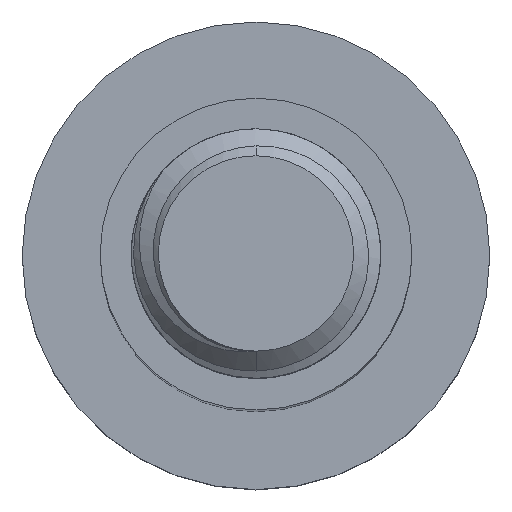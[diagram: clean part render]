
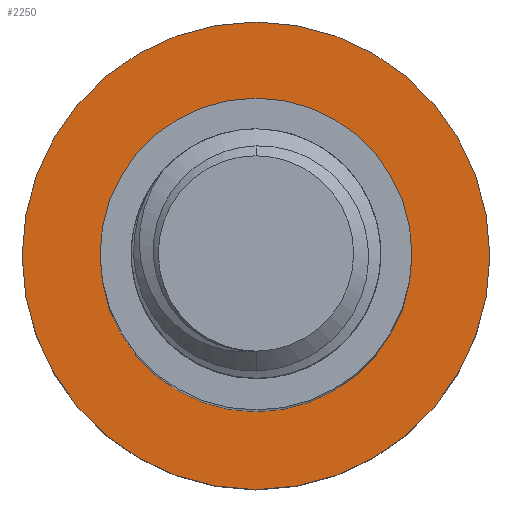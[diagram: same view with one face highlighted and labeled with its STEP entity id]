
A CAD part, top view. The second image highlights one B-rep face of the part: STEP entity #2250.
In plain terms, the highlighted planar face has unit normal (0, 0, 1).
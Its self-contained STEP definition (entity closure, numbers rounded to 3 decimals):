
#37 = CARTESIAN_POINT ( 'NONE',  ( 10., 0., -65. ) ) ;
#87 = ORIENTED_EDGE ( 'NONE', *, *, #983, .F. ) ;
#324 = FACE_BOUND ( 'NONE', #2232, .T. ) ;
#523 = VERTEX_POINT ( 'NONE', #37 ) ;
#542 = CARTESIAN_POINT ( 'NONE',  ( 0., 0., -65. ) ) ;
#620 = DIRECTION ( 'NONE',  ( -1., 0., 0. ) ) ;
#717 = DIRECTION ( 'NONE',  ( 0., 0., -1. ) ) ;
#718 = DIRECTION ( 'NONE',  ( -1., 0., 0. ) ) ;
#770 = CARTESIAN_POINT ( 'NONE',  ( 15., 0., -65. ) ) ;
#983 = EDGE_CURVE ( 'NONE', #5608, #2799, #1940, .T. ) ;
#1052 = CARTESIAN_POINT ( 'NONE',  ( -15., 0., -65. ) ) ;
#1115 = AXIS2_PLACEMENT_3D ( 'NONE', #4555, #717, #620 ) ;
#1305 = ORIENTED_EDGE ( 'NONE', *, *, #4682, .T. ) ;
#1494 = AXIS2_PLACEMENT_3D ( 'NONE', #1571, #4165, #718 ) ;
#1571 = CARTESIAN_POINT ( 'NONE',  ( 0., 0., -65. ) ) ;
#1940 = CIRCLE ( 'NONE', #2318, 15. ) ;
#2071 = FACE_OUTER_BOUND ( 'NONE', #2747, .T. ) ;
#2102 = DIRECTION ( 'NONE',  ( -1., 0., 0. ) ) ;
#2231 = AXIS2_PLACEMENT_3D ( 'NONE', #2969, #4724, #2102 ) ;
#2232 = EDGE_LOOP ( 'NONE', ( #4092, #1305 ) ) ;
#2250 = ADVANCED_FACE ( 'NONE', ( #324, #2071 ), #5598, .F. ) ;
#2318 = AXIS2_PLACEMENT_3D ( 'NONE', #5199, #3528, #4754 ) ;
#2649 = VERTEX_POINT ( 'NONE', #3091 ) ;
#2658 = ORIENTED_EDGE ( 'NONE', *, *, #4192, .F. ) ;
#2747 = EDGE_LOOP ( 'NONE', ( #2658, #87 ) ) ;
#2799 = VERTEX_POINT ( 'NONE', #770 ) ;
#2961 = AXIS2_PLACEMENT_3D ( 'NONE', #542, #4124, #4918 ) ;
#2969 = CARTESIAN_POINT ( 'NONE',  ( 0., 0., -65. ) ) ;
#3091 = CARTESIAN_POINT ( 'NONE',  ( -10., 0., -65. ) ) ;
#3528 = DIRECTION ( 'NONE',  ( 0., 0., -1. ) ) ;
#3890 = CIRCLE ( 'NONE', #1494, 15. ) ;
#4092 = ORIENTED_EDGE ( 'NONE', *, *, #4675, .T. ) ;
#4124 = DIRECTION ( 'NONE',  ( 0., 0., -1. ) ) ;
#4165 = DIRECTION ( 'NONE',  ( 0., 0., -1. ) ) ;
#4192 = EDGE_CURVE ( 'NONE', #2799, #5608, #3890, .T. ) ;
#4555 = CARTESIAN_POINT ( 'NONE',  ( 0., 0., -65. ) ) ;
#4675 = EDGE_CURVE ( 'NONE', #2649, #523, #4817, .T. ) ;
#4682 = EDGE_CURVE ( 'NONE', #523, #2649, #5455, .T. ) ;
#4724 = DIRECTION ( 'NONE',  ( 0., 0., -1. ) ) ;
#4754 = DIRECTION ( 'NONE',  ( -1., 0., 0. ) ) ;
#4817 = CIRCLE ( 'NONE', #1115, 10. ) ;
#4918 = DIRECTION ( 'NONE',  ( -1., 0., 0. ) ) ;
#5199 = CARTESIAN_POINT ( 'NONE',  ( 0., 0., -65. ) ) ;
#5455 = CIRCLE ( 'NONE', #2961, 10. ) ;
#5598 = PLANE ( 'NONE',  #2231 ) ;
#5608 = VERTEX_POINT ( 'NONE', #1052 ) ;
